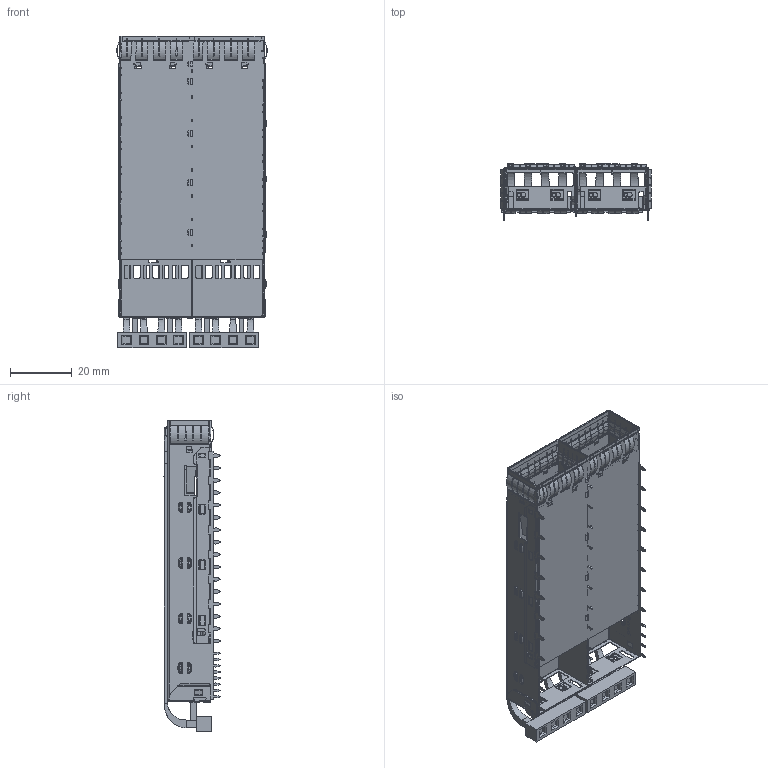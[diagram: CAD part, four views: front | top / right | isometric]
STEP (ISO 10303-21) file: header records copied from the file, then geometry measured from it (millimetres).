
FILE_DESCRIPTION((''),'2;1');
FILE_NAME('PEPC12-E020-F1S-0R-A','2026-06-25T09:29:50',('39002408'),(''),'CREO PARAMETRIC BY PTC INC, 2019471','CREO PARAMETRIC BY PTC INC, 2019471','');
FILE_SCHEMA(('CONFIG_CONTROL_DESIGN'));
Products named in the file (1): PEPC12-E020-F1S-0R-A
Bounding box: 48.68 x 18.15 x 100.95 mm (x, y, z)
Volume: 6444.7 mm3; surface area: 35238.5 mm2
Topology: 1 solids, 1 shells, 5614 faces, 15699 edges, 9845 vertices
Faces by surface type: plane 2744, cylinder 2068, bspline 605, cone 124, torus 57, extrusion 16
Entity records: 201327 total; most frequent: CARTESIAN_POINT 58203, ORIENTED_EDGE 31396, DIRECTION 28126, EDGE_CURVE 15698, VECTOR 10122, LINE 10106, VERTEX_POINT 9845, AXIS2_PLACEMENT_3D 9002
